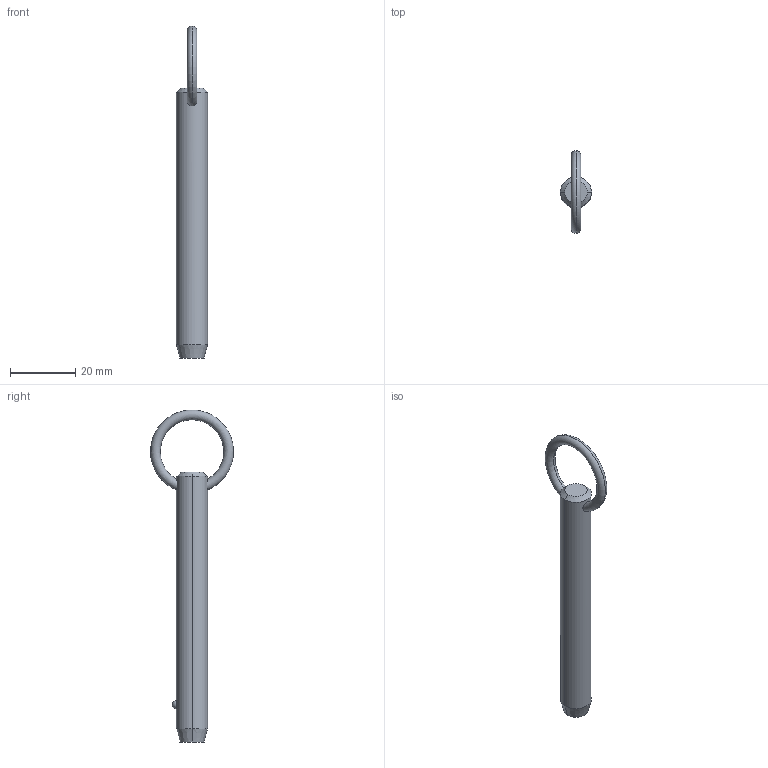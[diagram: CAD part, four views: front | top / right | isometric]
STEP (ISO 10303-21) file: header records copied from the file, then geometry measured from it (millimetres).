
FILE_DESCRIPTION (( 'STEP AP203' ), '1' );
FILE_NAME ('P1250.037-250.step', '2019-07-29T20:02:37', ( '' ), ( '' ), 'SwSTEP 2.0', 'SolidWorks 2017', '' );
FILE_SCHEMA (( 'CONFIG_CONTROL_DESIGN' ));
Length unit declared in the file: millimetre
Products named in the file (1): P1250.037-250
Bounding box: 9.52 x 25.39 x 101.6 mm (x, y, z)
Volume: 6227.1 mm3; surface area: 3111.1 mm2
Topology: 1 solids, 1 shells, 12 faces, 28 edges, 17 vertices
Faces by surface type: cone 4, torus 2, sphere 2, cylinder 2, plane 2
Entity records: 523 total; most frequent: CARTESIAN_POINT 190, DIRECTION 56, ORIENTED_EDGE 48, AXIS2_PLACEMENT_3D 25, EDGE_CURVE 24, VERTEX_POINT 15, EDGE_LOOP 15, FACE_OUTER_BOUND 12
